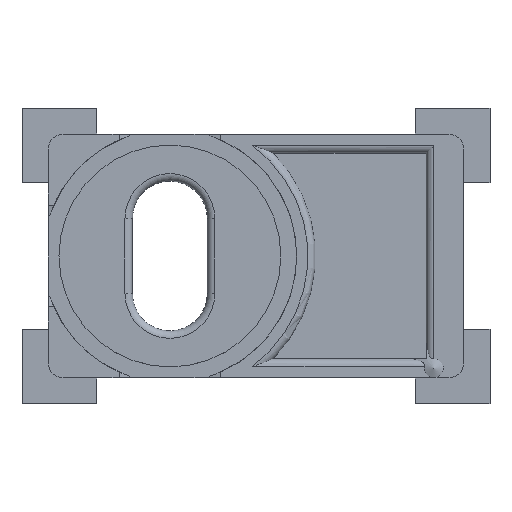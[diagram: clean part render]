
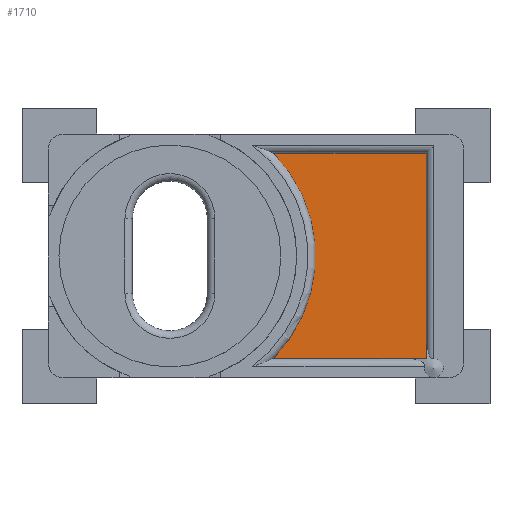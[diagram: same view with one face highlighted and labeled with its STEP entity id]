
A CAD part, top view. The second image highlights one B-rep face of the part: STEP entity #1710.
In plain terms, the highlighted planar face has unit normal (0, 0, 1).
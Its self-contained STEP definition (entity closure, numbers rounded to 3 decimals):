
#201=FACE_OUTER_BOUND('',#299,.T.);
#299=EDGE_LOOP('',(#1377,#1378,#1379,#1380));
#444=LINE('',#3020,#563);
#451=LINE('',#3046,#570);
#452=LINE('',#3048,#571);
#563=VECTOR('',#2159,41.022);
#570=VECTOR('',#2182,55.);
#571=VECTOR('',#2185,41.022);
#620=CIRCLE('',#1832,38.875);
#766=VERTEX_POINT('',#3008);
#767=VERTEX_POINT('',#3010);
#769=VERTEX_POINT('',#3018);
#777=VERTEX_POINT('',#3044);
#980=EDGE_CURVE('',#766,#767,#620,.T.);
#984=EDGE_CURVE('',#769,#766,#444,.T.);
#997=EDGE_CURVE('',#777,#769,#451,.T.);
#998=EDGE_CURVE('',#767,#777,#452,.T.);
#1377=ORIENTED_EDGE('',*,*,#998,.F.);
#1378=ORIENTED_EDGE('',*,*,#980,.F.);
#1379=ORIENTED_EDGE('',*,*,#984,.F.);
#1380=ORIENTED_EDGE('',*,*,#997,.F.);
#1646=PLANE('',#1843);
#1710=ADVANCED_FACE('',(#201),#1646,.T.);
#1832=AXIS2_PLACEMENT_3D('',#3011,#2153,#2154);
#1843=AXIS2_PLACEMENT_3D('',#3049,#2186,#2187);
#2153=DIRECTION('center_axis',(0.,0.,1.));
#2154=DIRECTION('ref_axis',(-0.707,0.707,0.));
#2159=DIRECTION('',(-1.,0.,0.));
#2182=DIRECTION('',(0.,-1.,0.));
#2185=DIRECTION('',(1.,0.,0.));
#2186=DIRECTION('center_axis',(0.,0.,1.));
#2187=DIRECTION('ref_axis',(1.,0.,0.));
#3008=CARTESIAN_POINT('',(59.978,5.,1.1));
#3010=CARTESIAN_POINT('',(59.978,60.,1.1));
#3011=CARTESIAN_POINT('Origin',(32.5,32.5,1.1));
#3018=CARTESIAN_POINT('',(101.,5.,1.1));
#3020=CARTESIAN_POINT('',(52.28,5.,1.1));
#3044=CARTESIAN_POINT('',(101.,60.,1.1));
#3046=CARTESIAN_POINT('',(101.,5.,1.1));
#3048=CARTESIAN_POINT('',(111.,60.,1.1));
#3049=CARTESIAN_POINT('Origin',(83.402,32.5,1.1));
